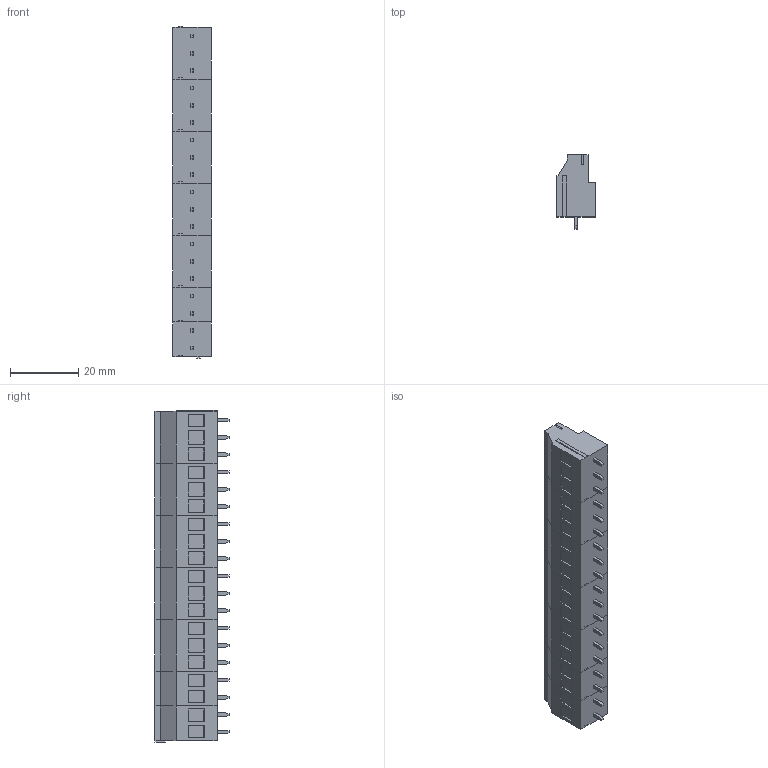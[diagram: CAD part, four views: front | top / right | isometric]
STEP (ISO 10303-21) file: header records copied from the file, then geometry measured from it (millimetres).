
FILE_DESCRIPTION (( 'STEP AP214' ), '1' );
FILE_NAME ('CUI_DEVICES_TB010-508-P19BK.step', '2019-10-22T00:40:10', ( '' ), ( '' ), 'SwSTEP 2.0', 'SolidWorks 2019', '' );
FILE_SCHEMA (( 'AUTOMOTIVE_DESIGN' ));
Length unit declared in the file: millimetre
Products named in the file (3): CUI_DEVICES_TB010-508-P19BK; TB010-508-02P_Black - P; TB010-508-03P_Black - P
Assembly tree (7 placements, depth 2):
  CUI_DEVICES_TB010-508-P19BK
    TB010-508-02P_Black - P  x2
    TB010-508-03P_Black - P  x5
Bounding box: 11.3 x 21.7 x 97.32 mm (x, y, z)
Volume: 16442.8 mm3; surface area: 9785.5 mm2
Topology: 7 solids, 26 shells, 989 faces, 2557 edges, 1696 vertices
Faces by surface type: plane 728, bspline 171, cone 52, cylinder 38
Entity records: 12266 total; most frequent: CARTESIAN_POINT 4978, ORIENTED_EDGE 1372, DIRECTION 1171, EDGE_CURVE 686, LINE 483, VECTOR 483, VERTEX_POINT 455, AXIS2_PLACEMENT_3D 344
